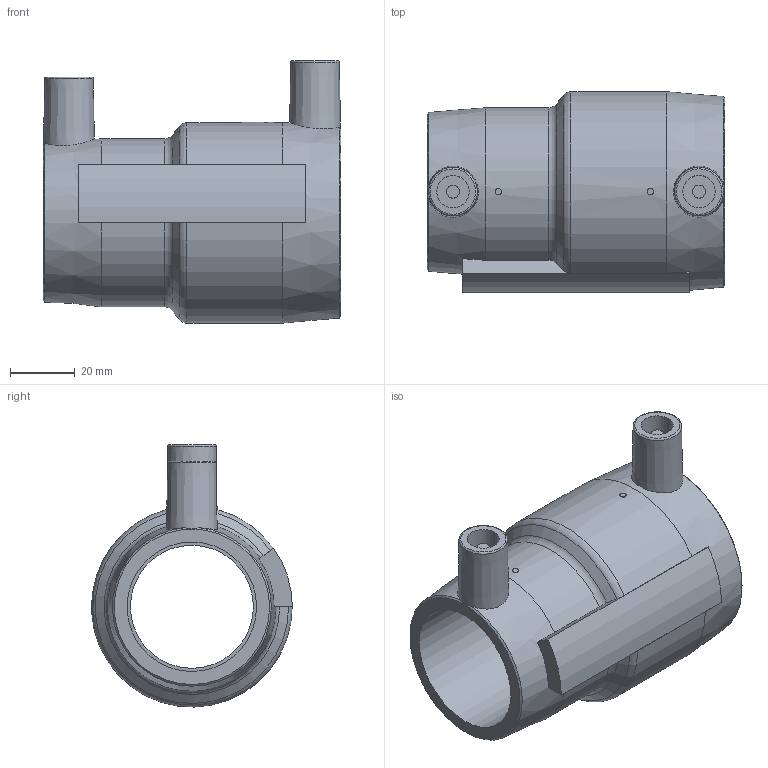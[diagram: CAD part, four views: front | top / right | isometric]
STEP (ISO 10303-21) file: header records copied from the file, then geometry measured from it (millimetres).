
FILE_DESCRIPTION(/* description */ ('Unknown'),/* implementation_level */ '2;1');
FILE_NAME(/* name */ 'REP050040C',/* time_stamp */ '2021-05-25T17:38:21+02:00',/* author */ ('Unknown'),/* organization */ ('Unknown'),/* preprocessor_version */ 'ST-DEVELOPER v16.7',/* originating_system */ 'Solid Edge',/* authorisation */ 'Unknown');
FILE_SCHEMA (('AUTOMOTIVE_DESIGN {1 0 10303 214 3 1 1}'));
Length unit declared in the file: millimetre
Products named in the file (1): REP050040C
Bounding box: 92 x 62 x 80.99 mm (x, y, z)
Volume: 95386.3 mm3; surface area: 36031.9 mm2
Topology: 1 solids, 1 shells, 39 faces, 85 edges, 56 vertices
Faces by surface type: plane 16, cylinder 12, cone 7, torus 4
Full cylindrical faces by diameter (mm): 2 x2, 4 x2, 10 x2, 38 x1, 40 x1, 50 x1
Entity records: 1006 total; most frequent: CARTESIAN_POINT 220, DIRECTION 165, ORIENTED_EDGE 120, AXIS2_PLACEMENT_3D 76, EDGE_LOOP 66, FACE_BOUND 66, EDGE_CURVE 60, VERTEX_POINT 48
